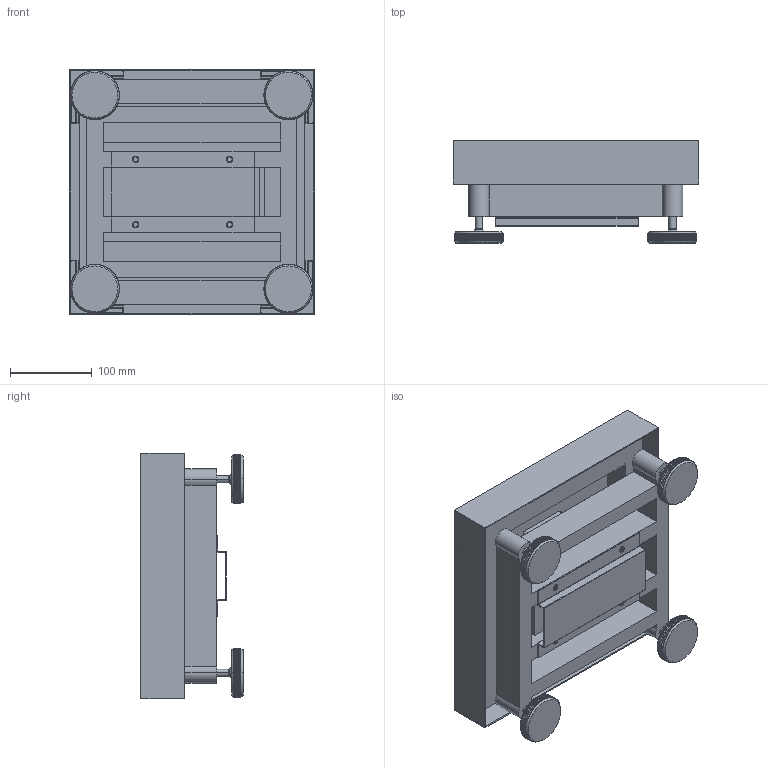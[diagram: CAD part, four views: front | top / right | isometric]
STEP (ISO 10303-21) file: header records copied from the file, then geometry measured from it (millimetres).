
FILE_DESCRIPTION((''),'1');
FILE_NAME('LELA_300x300_6-15-30-50_kg.step','2023-01-30T11:03:04',(''),(''),'','','');
FILE_SCHEMA(('AUTOMOTIVE_DESIGN { 1 0 10303 214 1 1 1 1 }'));
Products named in the file (11): LELA 300x300_6-15-30-50_kg; LELA cover 01; LELA part 02; LELA part 03; LELA part 05; LELA part 06; LELA load cell 01; LELA part 07; LELA part 08; LELA plate 01; LELA part 10
Assembly tree (19 placements, depth 3):
  LELA 300x300_6-15-30-50_kg
    LELA cover 01
    LELA part 02
      LELA part 03  x4
      LELA part 05  x4
      LELA part 06
    LELA load cell 01
    LELA part 07
      LELA part 08
      LELA plate 01
    LELA part 10  x4
Bounding box: 300 x 125 x 300 mm (x, y, z)
Volume: 1210605.3 mm3; surface area: 1106877.5 mm2
Topology: 17 solids, 21 shells, 3215 faces, 7955 edges, 4673 vertices
Faces by surface type: cylinder 1629, plane 1288, sphere 160, torus 80, cone 42, revolution 16
Entity records: 34763 total; most frequent: DIRECTION 6059, CARTESIAN_POINT 5074, ORIENTED_EDGE 4974, AXIS2_PLACEMENT_3D 2548, EDGE_CURVE 2489, VERTEX_POINT 1523, CIRCLE 1514, EDGE_LOOP 1128
